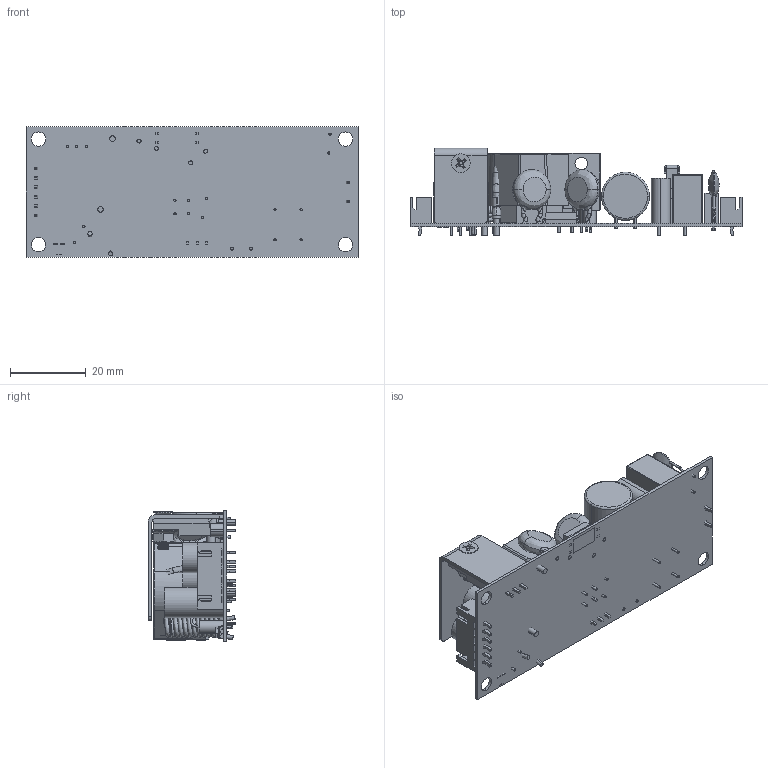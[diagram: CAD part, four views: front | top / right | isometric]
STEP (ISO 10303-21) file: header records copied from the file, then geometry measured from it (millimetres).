
FILE_DESCRIPTION (( 'STEP AP214' ), '1' );
FILE_NAME ('EML30 SERIES-T.STEP', '2015-08-21T12:45:59', ( '' ), ( '' ), 'SwSTEP 2.0', 'SolidWorks 2015', '' );
FILE_SCHEMA (( 'AUTOMOTIVE_DESIGN' ));
Length unit declared in the file: inch
Products named in the file (34): EML30-T SERIES PCB; RM8 transformer; RM8+_+ú+¦Core Ñ_+N¦- 102,10,15; EML30 SERIES-T; RM8+_+ú+¦Core Ñ_+N¦- 102,10,15_2; RM8+_+ú+¦+ª¦a Ñ_+N¦- 102,10,16; RM8+_+ú+¦ñ¦¦í¦tÑ= Ñ_+N¦- 102,12,19; RM8+_+ú+¦ñ¦¦í¦tÑ= Ñ_+N¦- 102,12,19_2; M3x10L; RM8+_+ú+¦ñ¦¦í¦tÑ= Ñ_+N¦- 102,12,19_3; Y1 cap; RM8+_+ú+¦ñ¦¦í¦tÑ= Ñ_+N¦- 102,12,19_4; EML30 CASE; RM8+_+ú+¦ñ¦¦í¦tÑ= Ñ_+N¦- 102,12,19_5; OptoCoupler TLP521-2; RM8+_+ú+¦ñ¦¦í¦tÑ= Ñ_+N¦- 102,12,19_6; B-1030207; VR; E-1030207; heatsink; B-1030210; semi 2 10mm-A-1030207_2; D12.7x29.5mm bulk cap; semi 10mm-A-1030207; component; 3PIN (ECL25USXX-T); NUT; D-1030207; A-1030207_安因; TR15R; C-1030207; 6PIN (ECL25USXX-T)
Assembly tree (37 placements, depth 4):
  EML30 SERIES-T
    EML30-T SERIES PCB
    C-1030207  x2
    A-1030207_安因
    NUT
    component
    D12.7x29.5mm bulk cap
    B-1030210
    E-1030207  x2
    RM8 transformer
      RM8+_+ú+¦ñ¦¦í¦tÑ= Ñ_+N¦- 102,12,19
        RM8+_+ú+¦ñ¦¦í¦tÑ= Ñ_+N¦- 102,12,19
        RM8+_+ú+¦ñ¦¦í¦tÑ= Ñ_+N¦- 102,12,19_6
        RM8+_+ú+¦ñ¦¦í¦tÑ= Ñ_+N¦- 102,12,19_5
        RM8+_+ú+¦ñ¦¦í¦tÑ= Ñ_+N¦- 102,12,19_4
        RM8+_+ú+¦ñ¦¦í¦tÑ= Ñ_+N¦- 102,12,19_3
        RM8+_+ú+¦ñ¦¦í¦tÑ= Ñ_+N¦- 102,12,19_2
      RM8+_+ú+¦+ª¦a Ñ_+N¦- 102,10,16
      RM8+_+ú+¦Core Ñ_+N¦- 102,10,15
        RM8+_+ú+¦Core Ñ_+N¦- 102,10,15_2
        RM8+_+ú+¦Core Ñ_+N¦- 102,10,15
    6PIN (ECL25USXX-T)
    TR15R
    D-1030207  x2
    3PIN (ECL25USXX-T)
    semi 10mm-A-1030207
    semi 2 10mm-A-1030207_2
    heatsink
    VR
    B-1030207
    OptoCoupler TLP521-2
    EML30 CASE
    Y1 cap  x2
    M3x10L
Bounding box: 87.9 x 23.19 x 34.6 mm (x, y, z)
Volume: 22186.8 mm3; surface area: 26177.1 mm2
Topology: 34 solids, 34 shells, 1468 faces, 3854 edges, 2481 vertices
Faces by surface type: plane 909, cylinder 321, bspline 186, cone 52
Entity records: 71997 total; most frequent: CARTESIAN_POINT 18199, ORIENTED_EDGE 7504, DIRECTION 6446, EDGE_CURVE 3752, LINE 2512, VECTOR 2512, VERTEX_POINT 2423, AXIS2_PLACEMENT_3D 1967
